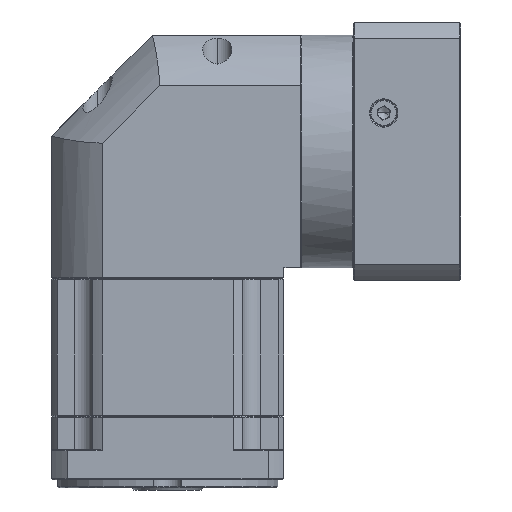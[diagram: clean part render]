
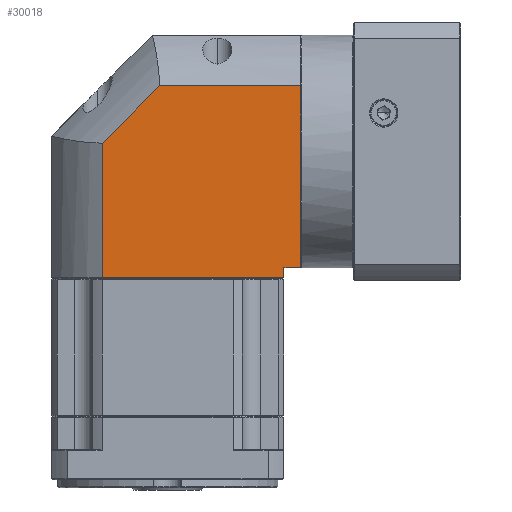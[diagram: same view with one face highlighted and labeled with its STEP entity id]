
A CAD part, front view. The second image highlights one B-rep face of the part: STEP entity #30018.
In plain terms, the highlighted planar face has unit normal (0, -1, 0).
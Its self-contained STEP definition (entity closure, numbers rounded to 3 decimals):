
#447 = EDGE_CURVE ( 'NONE', #132144, #84182, #107488, .T. ) ;
#1323 = DIRECTION ( 'NONE',  ( 0., 1., 0. ) ) ;
#1468 = CARTESIAN_POINT ( 'NONE',  ( -21.182, 18.037, -48.679 ) ) ;
#2706 = ORIENTED_EDGE ( 'NONE', *, *, #18827, .F. ) ;
#6474 = CARTESIAN_POINT ( 'NONE',  ( -21.182, 18.037, -43.679 ) ) ;
#6737 = CARTESIAN_POINT ( 'NONE',  ( 3.919, 18.037, 17.883 ) ) ;
#10718 = DIRECTION ( 'NONE',  ( 1., 0., 0. ) ) ;
#18827 = EDGE_CURVE ( 'NONE', #42358, #132144, #124329, .T. ) ;
#21179 = CARTESIAN_POINT ( 'NONE',  ( 32.257, 18.037, 46.221 ) ) ;
#22753 = CARTESIAN_POINT ( 'NONE',  ( 93.818, 18.037, -48.679 ) ) ;
#25678 = DIRECTION ( 'NONE',  ( -1., 0., 0. ) ) ;
#27904 = VECTOR ( 'NONE', #60033, 1000. ) ;
#30018 = ADVANCED_FACE ( 'NONE', ( #67824 ), #123857, .F. ) ;
#30422 = VERTEX_POINT ( 'NONE', #48113 ) ;
#31742 = LINE ( 'NONE', #6474, #124113 ) ;
#34905 = CARTESIAN_POINT ( 'NONE',  ( 3.919, 18.037, 17.883 ) ) ;
#38102 = DIRECTION ( 'NONE',  ( 0., 0., -1. ) ) ;
#42358 = VERTEX_POINT ( 'NONE', #99213 ) ;
#43424 = EDGE_CURVE ( 'NONE', #84182, #112160, #131554, .T. ) ;
#46320 = CARTESIAN_POINT ( 'NONE',  ( 3.919, 18.037, -48.679 ) ) ;
#46569 = ORIENTED_EDGE ( 'NONE', *, *, #447, .F. ) ;
#48113 = CARTESIAN_POINT ( 'NONE',  ( 102.218, 18.037, 46.221 ) ) ;
#49836 = CARTESIAN_POINT ( 'NONE',  ( 93.818, 18.037, -55.179 ) ) ;
#51333 = CARTESIAN_POINT ( 'NONE',  ( -21.182, 18.037, -55.179 ) ) ;
#51409 = EDGE_CURVE ( 'NONE', #30422, #117603, #91470, .T. ) ;
#53945 = EDGE_LOOP ( 'NONE', ( #2706, #84995, #131431, #72556, #115313, #119946, #46569 ) ) ;
#60033 = DIRECTION ( 'NONE',  ( 0., 0., 1. ) ) ;
#60908 = CARTESIAN_POINT ( 'NONE',  ( 3.919, 18.037, -55.179 ) ) ;
#61722 = CARTESIAN_POINT ( 'NONE',  ( 102.218, 18.037, -43.679 ) ) ;
#62454 = LINE ( 'NONE', #6737, #124516 ) ;
#67341 = DIRECTION ( 'NONE',  ( 0.707, 0., 0.707 ) ) ;
#67824 = FACE_OUTER_BOUND ( 'NONE', #53945, .T. ) ;
#70711 = DIRECTION ( 'NONE',  ( 0., 0., -1. ) ) ;
#72556 = ORIENTED_EDGE ( 'NONE', *, *, #74021, .F. ) ;
#74021 = EDGE_CURVE ( 'NONE', #109470, #30422, #94289, .T. ) ;
#75130 = EDGE_CURVE ( 'NONE', #117603, #42358, #31742, .T. ) ;
#76993 = AXIS2_PLACEMENT_3D ( 'NONE', #51333, #1323, #10718 ) ;
#79634 = EDGE_CURVE ( 'NONE', #112160, #109470, #62454, .T. ) ;
#80283 = DIRECTION ( 'NONE',  ( 1., 0., 0. ) ) ;
#84182 = VERTEX_POINT ( 'NONE', #46320 ) ;
#84995 = ORIENTED_EDGE ( 'NONE', *, *, #75130, .F. ) ;
#86586 = VECTOR ( 'NONE', #38102, 1000. ) ;
#91470 = LINE ( 'NONE', #121309, #86586 ) ;
#94289 = LINE ( 'NONE', #131953, #124621 ) ;
#99213 = CARTESIAN_POINT ( 'NONE',  ( 93.818, 18.037, -43.679 ) ) ;
#104276 = VECTOR ( 'NONE', #112431, 1000. ) ;
#107488 = LINE ( 'NONE', #1468, #104276 ) ;
#109470 = VERTEX_POINT ( 'NONE', #21179 ) ;
#112160 = VERTEX_POINT ( 'NONE', #34905 ) ;
#112431 = DIRECTION ( 'NONE',  ( -1., 0., 0. ) ) ;
#115313 = ORIENTED_EDGE ( 'NONE', *, *, #79634, .F. ) ;
#117603 = VERTEX_POINT ( 'NONE', #61722 ) ;
#119592 = VECTOR ( 'NONE', #70711, 1000. ) ;
#119946 = ORIENTED_EDGE ( 'NONE', *, *, #43424, .F. ) ;
#121309 = CARTESIAN_POINT ( 'NONE',  ( 102.218, 18.037, -55.179 ) ) ;
#123857 = PLANE ( 'NONE',  #76993 ) ;
#124113 = VECTOR ( 'NONE', #25678, 1000. ) ;
#124329 = LINE ( 'NONE', #49836, #119592 ) ;
#124516 = VECTOR ( 'NONE', #67341, 1000. ) ;
#124621 = VECTOR ( 'NONE', #80283, 1000. ) ;
#131431 = ORIENTED_EDGE ( 'NONE', *, *, #51409, .F. ) ;
#131554 = LINE ( 'NONE', #60908, #27904 ) ;
#131953 = CARTESIAN_POINT ( 'NONE',  ( -21.182, 18.037, 46.221 ) ) ;
#132144 = VERTEX_POINT ( 'NONE', #22753 ) ;
